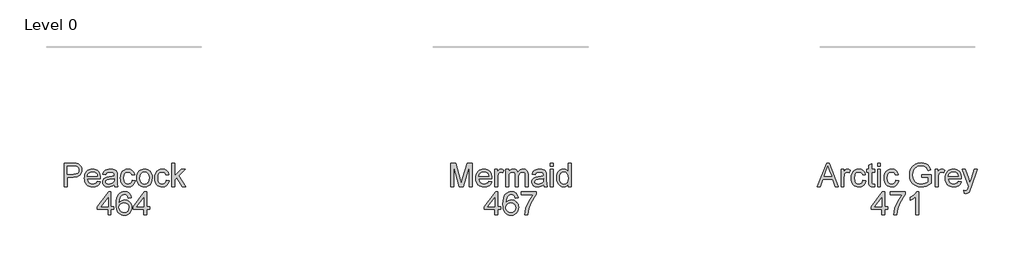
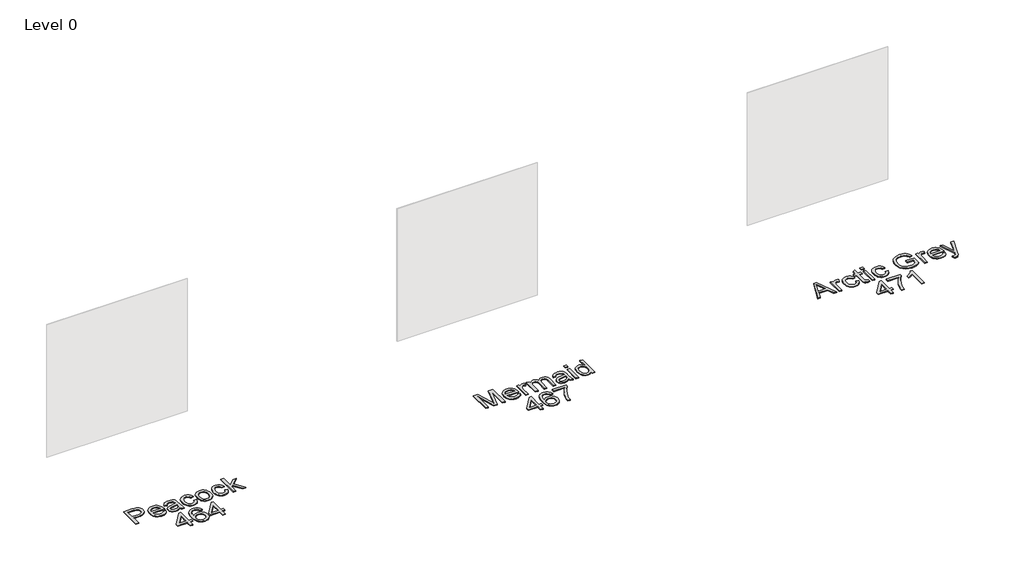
# One storey, part 7 of 15: 3 proxies.
"""IFC4 building model written with IfcOpenShell, lengths in millimetres."""

from ifc_helpers import new_model, si_unit, origin, origin_with_axes, place, context, project, spatial, polyline, outline, extrude, element, save

model = new_model("IFC4")

# Units and contexts
model_context = context("Model", 3, world=origin())
ifc_project = project(units=[si_unit("LENGTHUNIT", "METRE", prefix="MILLI")], contexts=[model_context])

# Site, building, storey
site = spatial("IfcSite", under=ifc_project)
building = spatial("IfcBuilding", under=site)
storey = spatial("IfcBuildingStorey", under=building, Name="Level 0", Elevation=0.0)

# Proxies
placement = place(None, origin())
element("IfcBuildingElementProxy", 1, Name="300mm Arial", ObjectType="300mm Arial", at=placement, inside=storey, context=model_context, shape_type="SweptSolid", body=[
    extrude(outline(polyline([(-220.5614958, -42021.0303751), (-220.5614958, -41719.6614447), (-108.8725221, -41719.6614447), (-63.8437659, -41722.5309242), (-43.766606, -41727.8928043), (-27.2395073, -41736.6208046), (-13.9313762, -41749.1103984), (-3.5111187, -41765.7570587), (3.2211219, -41785.3927602), (5.465202, -41806.8494775), (3.9499881, -41825.3493434), (-0.5956538, -41842.3684842), (-8.1717237, -41857.9068999), (-18.7782215, -41871.9645907), (-33.3394507, -41883.6172529), (-52.7797149, -41891.940583), (-77.099014, -41896.9345811), (-106.2973481, -41898.5992471), (-182.8903795, -41898.5992471), (-182.8903795, -42021.0303751), (-220.5614958, -42021.0303751)]), holes=[polyline([(-182.8903795, -41860.9281308), (-104.0900561, -41860.9281308), (-70.686371, -41857.4700401), (-48.6134513, -41847.0957678), (-36.3077985, -41830.4491075), (-32.2059143, -41808.1738527), (-34.6247384, -41791.2512809), (-41.8812108, -41776.9774595), (-53.0740205, -41766.2353053), (-67.3018566, -41759.9077349), (-104.9729729, -41757.332561), (-182.8903795, -41757.332561), (-182.8903795, -41860.9281308)])]), origin_with_axes(), (0.0, 0.0, 1.0), 10.0),
    extrude(outline(polyline([(207.5059938, -41955.1059216), (244.4413461, -41959.8148111), (231.1332149, -41987.6450841), (209.8972267, -42008.4488109), (181.2116282, -42021.4166512), (145.5546658, -42025.7392647), (122.1803635, -42023.8745628), (101.3536441, -42018.2804572), (83.0745074, -42008.9569479), (67.3429536, -41995.9040349), (54.6924115, -41979.4850016), (45.65631, -41960.0631315), (40.2346491, -41937.6384246), (38.4274288, -41912.2108809), (40.2530432, -41885.9211139), (45.7298864, -41862.7491467), (54.8579584, -41842.6949794), (67.6372592, -41825.7586121), (83.3274263, -41812.3033281), (101.1880972, -41802.692411), (121.2192718, -41796.9258607), (143.4209502, -41795.0036773), (164.907558, -41796.9212622), (184.3386251, -41802.6740169), (201.7141516, -41812.2619414), (217.0341374, -41825.6850357), (229.539826, -41842.5846148), (238.4724607, -41862.6019939), (243.8320415, -41885.7371729), (245.6185685, -41911.9901518), (245.3978393, -41922.1436948), (76.0985451, -41922.1436948), (82.6192535, -41950.3418497), (97.7667946, -41971.0720002), (119.6281822, -41983.8191113), (146.2904298, -41988.0681484), (166.3399985, -41986.0999797), (183.2257821, -41980.1954737), (196.9477805, -41969.9867483), (207.5059938, -41955.1059216)]), holes=[polyline([(76.0985451, -41884.4725785), (207.9474522, -41884.4725785), (202.8522865, -41864.5701626), (192.8642904, -41850.3331294), (170.9017353, -41837.0893775), (143.2737974, -41832.6747936), (117.8807427, -41836.1972637), (96.8838778, -41846.764674), (82.2881597, -41863.2365903), (76.0985451, -41884.4725785)])]), origin_with_axes(), (0.0, 0.0, 1.0), 10.0),
    extrude(outline(polyline([(424.5563709, -41992.7770379), (406.5577443, -42008.2096876), (388.0256888, -42018.3080484), (368.5371401, -42023.8814606), (347.6690339, -42025.7392647), (316.1875322, -42021.2694984), (292.9649813, -42007.8601997), (278.6451746, -41987.4979313), (273.8719057, -41962.1692559), (275.6745275, -41946.5526652), (281.0823928, -41932.3708143), (289.4241171, -41920.2307084), (300.0283156, -41910.739353), (326.4054546, -41898.3785179), (358.9997994, -41892.7131352), (397.5170443, -41886.7534469), (424.3356417, -41879.763689), (424.5563709, -41871.3759795), (421.9628029, -41854.5637723), (414.1820987, -41843.5641006), (396.7812803, -41835.3971204), (372.5378568, -41832.6747936), (350.0970551, -41834.4866124), (334.4252821, -41839.9220689), (323.7383102, -41849.9744444), (316.2519115, -41865.6370204), (278.5807952, -41860.9281308), (285.1198977, -41840.3267391), (294.8779676, -41824.1399313), (308.7655129, -41811.7607022), (327.6930416, -41802.5820464), (350.8420161, -41796.8982696), (377.3938991, -41795.0036773), (402.8605303, -41796.6775404), (423.0480547, -41801.6991296), (438.2691723, -41809.2499075), (448.8365826, -41818.5113368), (455.8447346, -41829.9616639), (460.3880773, -41844.0791354), (462.2274872, -41877.0413622), (462.2274872, -41923.9095284), (464.1404736, -41989.3557353), (471.6452663, -42021.0303751), (433.97415, -42021.0303751), (424.5563709, -41992.7770379)]), holes=[polyline([(424.5563709, -41917.4348053), (363.7822653, -41928.9862999), (331.3718616, -41935.093141), (316.6933699, -41945.0259549), (311.543022, -41959.5205055), (314.3481222, -41970.7225123), (322.7634229, -41979.9011681), (336.6049829, -41986.0264033), (355.6888614, -41988.0681484), (375.9223712, -41985.8148711), (393.8014361, -41979.0550395), (408.2959867, -41969.0946345), (418.3759534, -41957.2396372), (422.8457197, -41945.0259549), (424.3356417, -41928.1033831), (424.5563709, -41917.4348053)])]), origin_with_axes(), (0.0, 0.0, 1.0), 10.0),
    extrude(outline(polyline([(655.2919583, -41940.979253), (692.9630746, -41945.6881425), (682.4600436, -41979.1929952), (662.7231746, -42004.5124735), (635.6102716, -42020.4325669), (602.9791386, -42025.7392647), (581.8512158, -42023.8883584), (562.9075923, -42018.3356395), (546.1482681, -42009.0811081), (531.5732433, -41996.124764), (519.7757276, -41979.7103293), (511.3489306, -41960.0815256), (506.2928525, -41937.2383529), (504.6074931, -41911.1808114), (507.4861697, -41877.6575646), (516.1221995, -41848.604084), (530.6535383, -41825.1424097), (551.2181419, -41808.3945819), (575.8202503, -41798.3514034), (602.4641038, -41795.0036773), (634.2950934, -41799.6022022), (659.7433304, -41813.397777), (677.9994745, -41835.6546378), (688.2541851, -41865.6370204), (650.5830688, -41870.3459099), (643.7496607, -41853.9107818), (633.108674, -41842.1293609), (619.2487198, -41835.0384354), (602.7584094, -41832.6747936), (578.4138184, -41837.3285008), (559.0908166, -41851.2896225), (546.4816612, -41875.3123168), (542.2786094, -41910.1507418), (546.3896907, -41945.4582163), (558.7229346, -41969.563684), (577.6964485, -41983.4420323), (601.7283398, -41988.0681484), (621.2352826, -41985.1802747), (637.2289523, -41976.5166537), (648.8632204, -41961.8565562), (655.2919583, -41940.979253)])), origin_with_axes(), (0.0, 0.0, 1.0), 10.0),
    extrude(outline(polyline([(716.5075223, -41910.371471), (718.5446688, -41881.708865), (724.6561085, -41857.0101876), (734.8418412, -41836.2754386), (749.1018671, -41819.5046182), (763.4584619, -41808.7854565), (779.3049789, -41801.1289125), (796.6414179, -41796.5349861), (815.467779, -41795.0036773), (836.2508125, -41796.8683791), (855.0426846, -41802.4624847), (871.8433955, -41811.7859941), (886.6529451, -41824.8389071), (898.7401679, -41841.1797655), (907.3738984, -41860.3671108), (912.5541368, -41882.400943), (914.2808829, -41907.2812622), (911.2274623, -41945.3386546), (902.0672007, -41974.3093617), (887.0668123, -41996.0052024), (866.4930117, -42012.2379954), (842.0564502, -42022.3639474), (815.467779, -42025.7392647), (794.3812429, -42023.8814606), (775.4146268, -42018.3080484), (758.5679307, -42009.019028), (743.8411545, -41996.0143994), (731.8826904, -41979.514892), (723.3409304, -41959.7412347), (718.2158743, -41936.6934277), (716.5075223, -41910.371471)]), holes=[polyline([(754.1786386, -41910.2978946), (758.5380402, -41944.3913585), (771.6162452, -41968.6807672), (791.2979319, -41983.2213031), (815.467779, -41988.0681484), (839.5272615, -41983.1937119), (859.17216, -41968.5704026), (872.250365, -41943.9590971), (876.6097666, -41909.1206722), (872.2227738, -41876.0204897), (859.0617954, -41852.0621747), (839.3893057, -41837.5216389), (815.467779, -41832.6747936), (791.2979319, -41837.5032448), (771.6162452, -41851.9885983), (758.5380402, -41876.2228248), (754.1786386, -41910.2978946)])]), origin_with_axes(), (0.0, 0.0, 1.0), 10.0),
    extrude(outline(polyline([(1097.9275749, -41940.979253), (1135.5986912, -41945.6881425), (1125.0956602, -41979.1929952), (1105.3587912, -42004.5124735), (1078.2458882, -42020.4325669), (1045.6147552, -42025.7392647), (1024.4868324, -42023.8883584), (1005.5432089, -42018.3356395), (988.7838847, -42009.0811081), (974.2088599, -41996.124764), (962.4113442, -41979.7103293), (953.9845472, -41960.0815256), (948.9284691, -41937.2383529), (947.2431097, -41911.1808114), (950.1217863, -41877.6575646), (958.7578161, -41848.604084), (973.2891549, -41825.1424097), (993.8537585, -41808.3945819), (1018.4558669, -41798.3514034), (1045.0997204, -41795.0036773), (1076.93071, -41799.6022022), (1102.378947, -41813.397777), (1120.6350911, -41835.6546378), (1130.8898017, -41865.6370204), (1093.2186854, -41870.3459099), (1086.3852773, -41853.9107818), (1075.7442906, -41842.1293609), (1061.8843364, -41835.0384354), (1045.394026, -41832.6747936), (1021.049435, -41837.3285008), (1001.7264332, -41851.2896225), (989.1172778, -41875.3123168), (984.914226, -41910.1507418), (989.0253073, -41945.4582163), (1001.3585512, -41969.563684), (1020.3320651, -41983.4420323), (1044.3639564, -41988.0681484), (1063.8708992, -41985.1802747), (1079.8645689, -41976.5166537), (1091.498837, -41961.8565562), (1097.9275749, -41940.979253)])), origin_with_axes(), (0.0, 0.0, 1.0), 10.0),
    extrude(outline(polyline([(1168.560918, -42021.0303751), (1168.560918, -41719.6614447), (1206.2320343, -41719.6614447), (1206.2320343, -41881.6030989), (1290.6977404, -41799.7125668), (1342.7898309, -41799.7125668), (1257.2940552, -41882.6331685), (1347.4987204, -42021.0303751), (1303.5000338, -42021.0303751), (1230.2915168, -41908.8263666), (1206.2320343, -41932.1500851), (1206.2320343, -42021.0303751), (1168.560918, -42021.0303751)])), origin_with_axes(), (0.0, 0.0, 1.0), 10.0),
    extrude(outline(polyline([(344.5052488, -42386.9548287), (344.5052488, -42316.3214856), (207.9474522, -42316.3214856), (207.9474522, -42278.6503693), (353.9230279, -42090.2947877), (382.1763651, -42090.2947877), (382.1763651, -42278.6503693), (419.8474814, -42278.6503693), (419.8474814, -42316.3214856), (382.1763651, -42316.3214856), (382.1763651, -42386.9548287), (344.5052488, -42386.9548287)]), holes=[polyline([(344.5052488, -42278.6503693), (344.5052488, -42162.252506), (254.3005836, -42278.6503693), (344.5052488, -42278.6503693)])]), origin_with_axes(), (0.0, 0.0, 1.0), 10.0),
    extrude(outline(polyline([(645.8741792, -42165.6370204), (608.2030629, -42170.3459099), (602.13301, -42151.6758986), (593.9292415, -42138.9287875), (576.8411228, -42127.1749578), (556.1845488, -42123.2570145), (538.6733658, -42125.5378829), (522.1922524, -42132.380488), (508.0379927, -42146.7922652), (496.477301, -42166.6303017), (488.6690056, -42194.6905009), (485.7719349, -42233.7687659), (500.8826879, -42216.1380212), (518.9916791, -42203.7128069), (539.0872331, -42196.3459699), (560.1576744, -42193.8903576), (578.2574685, -42195.5688192), (594.9593111, -42200.604204), (610.2632021, -42208.996512), (624.1691415, -42220.7457432), (635.7252347, -42235.1529219), (643.979587, -42251.5190721), (648.9321983, -42269.844194), (650.5830688, -42290.1282875), (647.4744659, -42317.1032348), (638.1486573, -42342.1100134), (623.3781952, -42363.3184105), (603.9356318, -42378.898213), (580.7038838, -42388.4723419), (554.565868, -42391.6637182), (532.1089715, -42389.5483967), (511.8271772, -42383.2024323), (493.7204853, -42372.6258249), (477.7888956, -42357.8185746), (464.8003619, -42338.155282), (455.5228379, -42313.0105476), (449.9563234, -42282.3843715), (448.1008186, -42246.2767537), (450.1609578, -42205.7959387), (456.3413753, -42171.2472208), (466.6420712, -42142.6306001), (481.0630454, -42119.9460766), (496.6934317, -42104.9134985), (514.8162184, -42094.1759428), (535.4314057, -42087.7334094), (558.5389936, -42085.5858982), (591.5931908, -42090.901793), (618.0623004, -42106.8494775), (636.6035529, -42132.1781529), (645.8741792, -42165.6370204)]), holes=[polyline([(485.7719349, -42289.5396763), (487.9516357, -42306.2323219), (494.4907382, -42322.1708093), (504.6442813, -42335.8744136), (517.6673039, -42345.8624098), (533.3850622, -42351.9600539), (551.6228121, -42353.9926019), (576.4824379, -42349.780353), (596.0261689, -42337.1436065), (608.6905066, -42317.2779788), (612.9119525, -42291.3790863), (608.7456889, -42266.5194605), (596.2468981, -42247.5643407), (576.3720733, -42235.5621906), (550.0777077, -42231.5614739), (525.2548701, -42235.5621906), (504.4971285, -42247.5643407), (490.4532333, -42266.059608), (485.7719349, -42289.5396763)])]), origin_with_axes(), (0.0, 0.0, 1.0), 10.0),
    extrude(outline(polyline([(805.9764235, -42386.9548287), (805.9764235, -42316.3214856), (669.4186269, -42316.3214856), (669.4186269, -42278.6503693), (815.3942026, -42090.2947877), (843.6475398, -42090.2947877), (843.6475398, -42278.6503693), (881.3186561, -42278.6503693), (881.3186561, -42316.3214856), (843.6475398, -42316.3214856), (843.6475398, -42386.9548287), (805.9764235, -42386.9548287)]), holes=[polyline([(805.9764235, -42278.6503693), (805.9764235, -42162.252506), (715.7717583, -42278.6503693), (805.9764235, -42278.6503693)])]), origin_with_axes(), (0.0, 0.0, 1.0), 10.0),
])
element("IfcBuildingElementProxy", 2, Name="300mm Arial", ObjectType="300mm Arial", at=placement, inside=storey, context=model_context, shape_type="SweptSolid", body=[
    extrude(outline(polyline([(4772.3751699, -42021.0303751), (4772.3751699, -41719.6614447), (4837.1959774, -41719.6614447), (4898.8529998, -41932.0765087), (4911.2874113, -41976.4430773), (4924.7518923, -41928.3976887), (4985.3788451, -41719.6614447), (5050.1996526, -41719.6614447), (5050.1996526, -42021.0303751), (5012.5285363, -42021.0303751), (5012.5285363, -41757.332561), (4936.8184217, -42021.0303751), (4885.7564008, -42021.0303751), (4810.0462862, -41757.332561), (4810.0462862, -42021.0303751), (4772.3751699, -42021.0303751)])), origin_with_axes(), (0.0, 0.0, 1.0), 10.0),
    extrude(outline(polyline([(5266.367113, -41955.1059216), (5303.3024653, -41959.8148111), (5289.9943341, -41987.6450841), (5268.758346, -42008.4488109), (5240.0727474, -42021.4166512), (5204.415785, -42025.7392647), (5181.0414827, -42023.8745628), (5160.2147633, -42018.2804572), (5141.9356267, -42008.9569479), (5126.2040728, -41995.9040349), (5113.5535307, -41979.4850016), (5104.5174292, -41960.0631315), (5099.0957683, -41937.6384246), (5097.288548, -41912.2108809), (5099.1141624, -41885.9211139), (5104.5910056, -41862.7491467), (5113.7190776, -41842.6949794), (5126.4983784, -41825.7586121), (5142.1885455, -41812.3033281), (5160.0492164, -41802.692411), (5180.080391, -41796.9258607), (5202.2820694, -41795.0036773), (5223.7686772, -41796.9212622), (5243.1997444, -41802.6740169), (5260.5752708, -41812.2619414), (5275.8952567, -41825.6850357), (5288.4009453, -41842.5846148), (5297.3335799, -41862.6019939), (5302.6931608, -41885.7371729), (5304.4796877, -41911.9901518), (5304.2589585, -41922.1436948), (5134.9596643, -41922.1436948), (5141.4803727, -41950.3418497), (5156.6279138, -41971.0720002), (5178.4893014, -41983.8191113), (5205.151549, -41988.0681484), (5225.2011177, -41986.0999797), (5242.0869013, -41980.1954737), (5255.8088997, -41969.9867483), (5266.367113, -41955.1059216)]), holes=[polyline([(5134.9596643, -41884.4725785), (5266.8085714, -41884.4725785), (5261.7134058, -41864.5701626), (5251.7254096, -41850.3331294), (5229.7628545, -41837.0893775), (5202.1349166, -41832.6747936), (5176.7418619, -41836.1972637), (5155.7449971, -41846.764674), (5141.1492789, -41863.2365903), (5134.9596643, -41884.4725785)])]), origin_with_axes(), (0.0, 0.0, 1.0), 10.0),
    extrude(outline(polyline([(5342.150804, -42021.0303751), (5342.150804, -41799.7125668), (5375.1130308, -41799.7125668), (5375.1130308, -41832.4540644), (5387.2899248, -41813.4713534), (5398.5103257, -41802.2877408), (5409.7675147, -41796.8246932), (5422.0547734, -41795.0036773), (5440.8167551, -41797.909945), (5459.8730425, -41806.6287483), (5447.2914782, -41840.4003155), (5434.0477264, -41834.6061741), (5420.8039746, -41832.6747936), (5409.5559826, -41834.5325977), (5399.5036071, -41840.1060099), (5391.382612, -41848.971966), (5385.9287614, -41860.7074016), (5381.3486306, -41881.7502517), (5379.8219203, -41904.7060882), (5379.8219203, -42021.0303751), (5342.150804, -42021.0303751)])), origin_with_axes(), (0.0, 0.0, 1.0), 10.0),
    extrude(outline(polyline([(5483.4174902, -42021.0303751), (5483.4174902, -41799.7125668), (5521.0886065, -41799.7125668), (5521.0886065, -41836.1328843), (5532.4193719, -41819.4034506), (5546.9874989, -41806.2976545), (5564.2963468, -41797.8271716), (5583.8492748, -41795.0036773), (5604.8001545, -41797.8823539), (5621.5939675, -41806.5183837), (5634.1387436, -41820.3415497), (5642.3425121, -41838.7816347), (5656.0737075, -41819.6287783), (5671.7362835, -41805.9481666), (5689.3302399, -41797.7397996), (5708.8555768, -41795.0036773), (5737.1732934, -41799.556217), (5758.114976, -41813.213836), (5771.0552251, -41836.3444165), (5775.3686415, -41869.3158403), (5775.3686415, -42021.0303751), (5737.6975252, -42021.0303751), (5737.6975252, -41885.5026481), (5734.2026463, -41854.0487375), (5729.2914216, -41845.3759195), (5721.5475056, -41838.5609055), (5711.5871006, -41834.1463216), (5700.0264089, -41832.6747936), (5679.6181552, -41836.445584), (5662.980692, -41847.7579554), (5651.916641, -41867.3844598), (5648.228624, -41896.0976496), (5648.228624, -42021.0303751), (5610.5575077, -42021.0303751), (5610.5575077, -41881.3087934), (5608.3778069, -41860.0084258), (5601.8387044, -41844.8148994), (5590.333195, -41835.7098201), (5573.2542734, -41832.6747936), (5558.7413287, -41834.6981446), (5545.3688181, -41840.7681975), (5534.3323583, -41850.7377996), (5526.8275656, -41864.459798), (5522.5233462, -41883.4976912), (5521.0886065, -41909.4149778), (5521.0886065, -42021.0303751), (5483.4174902, -42021.0303751)])), origin_with_axes(), (0.0, 0.0, 1.0), 10.0),
    extrude(outline(polyline([(5973.1420021, -41992.7770379), (5955.1433755, -42008.2096876), (5936.61132, -42018.3080484), (5917.1227713, -42023.8814606), (5896.2546651, -42025.7392647), (5864.7731634, -42021.2694984), (5841.5506125, -42007.8601997), (5827.2308058, -41987.4979313), (5822.4575369, -41962.1692559), (5824.2601587, -41946.5526652), (5829.668024, -41932.3708143), (5838.0097483, -41920.2307084), (5848.6139468, -41910.739353), (5874.9910858, -41898.3785179), (5907.5854306, -41892.7131352), (5946.1026755, -41886.7534469), (5972.9212729, -41879.763689), (5973.1420021, -41871.3759795), (5970.5484341, -41854.5637723), (5962.7677299, -41843.5641006), (5945.3669115, -41835.3971204), (5921.123488, -41832.6747936), (5898.6826863, -41834.4866124), (5883.0109133, -41839.9220689), (5872.3239414, -41849.9744444), (5864.8375428, -41865.6370204), (5827.1664265, -41860.9281308), (5833.7055289, -41840.3267391), (5843.4635988, -41824.1399313), (5857.3511442, -41811.7607022), (5876.2786728, -41802.5820464), (5899.4276474, -41796.8982696), (5925.9795304, -41795.0036773), (5951.4461615, -41796.6775404), (5971.633686, -41801.6991296), (5986.8548035, -41809.2499075), (5997.4222138, -41818.5113368), (6004.4303658, -41829.9616639), (6008.9737085, -41844.0791354), (6010.8131184, -41877.0413622), (6010.8131184, -41923.9095284), (6012.7261048, -41989.3557353), (6020.2308975, -42021.0303751), (5982.5597812, -42021.0303751), (5973.1420021, -41992.7770379)]), holes=[polyline([(5973.1420021, -41917.4348053), (5912.3678965, -41928.9862999), (5879.9574928, -41935.093141), (5865.2790012, -41945.0259549), (5860.1286532, -41959.5205055), (5862.9337534, -41970.7225123), (5871.3490541, -41979.9011681), (5885.1906141, -41986.0264033), (5904.2744926, -41988.0681484), (5924.5080024, -41985.8148711), (5942.3870673, -41979.0550395), (5956.8816179, -41969.0946345), (5966.9615846, -41957.2396372), (5971.4313509, -41945.0259549), (5972.9212729, -41928.1033831), (5973.1420021, -41917.4348053)])]), origin_with_axes(), (0.0, 0.0, 1.0), 10.0),
    extrude(outline(polyline([(6062.6109034, -41757.332561), (6062.6109034, -41719.6614447), (6100.2820197, -41719.6614447), (6100.2820197, -41757.332561), (6062.6109034, -41757.332561)])), origin_with_axes(), (0.0, 0.0, 1.0), 10.0),
    extrude(outline(polyline([(6062.6109034, -42021.0303751), (6062.6109034, -41799.7125668), (6100.2820197, -41799.7125668), (6100.2820197, -42021.0303751), (6062.6109034, -42021.0303751)])), origin_with_axes(), (0.0, 0.0, 1.0), 10.0),
    extrude(outline(polyline([(6293.3464907, -42021.0303751), (6293.3464907, -41985.4929744), (6282.0755061, -42003.1007264), (6268.4224856, -42015.6776921), (6252.3874291, -42023.2238715), (6233.9703367, -42025.7392647), (6209.6165486, -42022.0972329), (6187.3228997, -42011.1711376), (6168.4505534, -41993.724334), (6154.360673, -41970.5201772), (6145.5866874, -41942.4967662), (6142.6620255, -41910.5922002), (6145.3567611, -41879.0831073), (6153.440968, -41850.627435), (6166.905449, -41826.843864), (6185.7410071, -41809.3510751), (6208.5220997, -41798.5905267), (6233.8231839, -41795.0036773), (6252.2540719, -41797.5696542), (6268.5512443, -41805.2675849), (6282.3652132, -41817.0673999), (6293.3464907, -41831.9390296), (6293.3464907, -41719.6614447), (6331.017607, -41719.6614447), (6331.017607, -42021.0303751), (6293.3464907, -42021.0303751)]), holes=[polyline([(6180.3331418, -41910.4450474), (6184.5821789, -41944.5201172), (6197.32929, -41968.7543436), (6215.8521485, -41983.2396972), (6237.4284275, -41988.0681484), (6258.9955094, -41983.4604264), (6277.0493184, -41969.6372604), (6289.2721976, -41946.341133), (6293.3464907, -41913.3145269), (6289.1986212, -41877.2069091), (6276.7550128, -41852.1725393), (6258.2413513, -41837.54923), (6235.8833231, -41832.6747936), (6214.0863149, -41837.356092), (6196.225644, -41851.3999871), (6184.3062674, -41875.523849), (6180.3331418, -41910.4450474)])]), origin_with_axes(), (0.0, 0.0, 1.0), 10.0),
    extrude(outline(polyline([(5344.5052488, -42386.9548287), (5344.5052488, -42316.3214856), (5207.9474522, -42316.3214856), (5207.9474522, -42278.6503693), (5353.9230279, -42090.2947877), (5382.1763651, -42090.2947877), (5382.1763651, -42278.6503693), (5419.8474814, -42278.6503693), (5419.8474814, -42316.3214856), (5382.1763651, -42316.3214856), (5382.1763651, -42386.9548287), (5344.5052488, -42386.9548287)]), holes=[polyline([(5344.5052488, -42278.6503693), (5344.5052488, -42162.252506), (5254.3005836, -42278.6503693), (5344.5052488, -42278.6503693)])]), origin_with_axes(), (0.0, 0.0, 1.0), 10.0),
    extrude(outline(polyline([(5645.8741792, -42165.6370204), (5608.2030629, -42170.3459099), (5602.13301, -42151.6758986), (5593.9292415, -42138.9287875), (5576.8411228, -42127.1749578), (5556.1845488, -42123.2570145), (5538.6733658, -42125.5378829), (5522.1922524, -42132.380488), (5508.0379927, -42146.7922652), (5496.477301, -42166.6303017), (5488.6690056, -42194.6905009), (5485.7719349, -42233.7687659), (5500.8826879, -42216.1380212), (5518.9916791, -42203.7128069), (5539.0872331, -42196.3459699), (5560.1576744, -42193.8903576), (5578.2574685, -42195.5688192), (5594.9593111, -42200.604204), (5610.2632021, -42208.996512), (5624.1691415, -42220.7457432), (5635.7252347, -42235.1529219), (5643.979587, -42251.5190721), (5648.9321983, -42269.844194), (5650.5830688, -42290.1282875), (5647.4744659, -42317.1032348), (5638.1486573, -42342.1100134), (5623.3781952, -42363.3184105), (5603.9356318, -42378.898213), (5580.7038838, -42388.4723419), (5554.565868, -42391.6637182), (5532.1089715, -42389.5483967), (5511.8271772, -42383.2024323), (5493.7204853, -42372.6258249), (5477.7888956, -42357.8185746), (5464.8003619, -42338.155282), (5455.5228379, -42313.0105476), (5449.9563234, -42282.3843715), (5448.1008186, -42246.2767537), (5450.1609578, -42205.7959387), (5456.3413753, -42171.2472208), (5466.6420712, -42142.6306001), (5481.0630454, -42119.9460766), (5496.6934317, -42104.9134985), (5514.8162184, -42094.1759428), (5535.4314057, -42087.7334094), (5558.5389936, -42085.5858982), (5591.5931908, -42090.901793), (5618.0623004, -42106.8494775), (5636.6035529, -42132.1781529), (5645.8741792, -42165.6370204)]), holes=[polyline([(5485.7719349, -42289.5396763), (5487.9516357, -42306.2323219), (5494.4907382, -42322.1708093), (5504.6442813, -42335.8744136), (5517.6673039, -42345.8624098), (5533.3850622, -42351.9600539), (5551.6228121, -42353.9926019), (5576.4824379, -42349.780353), (5596.0261689, -42337.1436065), (5608.6905066, -42317.2779788), (5612.9119525, -42291.3790863), (5608.7456889, -42266.5194605), (5596.2468981, -42247.5643407), (5576.3720733, -42235.5621906), (5550.0777077, -42231.5614739), (5525.2548701, -42235.5621906), (5504.4971285, -42247.5643407), (5490.4532333, -42266.059608), (5485.7719349, -42289.5396763)])]), origin_with_axes(), (0.0, 0.0, 1.0), 10.0),
    extrude(outline(polyline([(5683.5452955, -42127.9659041), (5683.5452955, -42090.2947877), (5881.3186561, -42090.2947877), (5881.3186561, -42120.7554169), (5853.1296983, -42156.4307734), (5825.2166519, -42201.7998205), (5800.5961493, -42252.7238857), (5782.284823, -42305.0642965), (5773.3085024, -42344.2253349), (5768.3053072, -42386.9548287), (5730.6341909, -42386.9548287), (5734.708484, -42348.1248841), (5745.6069881, -42301.9740878), (5763.0353976, -42253.0549795), (5786.699407, -42205.9200988), (5814.3273448, -42163.3101667), (5843.6475398, -42127.9659041), (5683.5452955, -42127.9659041)])), origin_with_axes(), (0.0, 0.0, 1.0), 10.0),
])
element("IfcBuildingElementProxy", 3, Name="300mm Arial", ObjectType="300mm Arial", at=placement, inside=storey, context=model_context, shape_type="SweptSolid", body=[
    extrude(outline(polyline([(9511.2525297, -42021.0303751), (9631.5499421, -41719.6614447), (9663.6292521, -41719.6614447), (9783.9266645, -42021.0303751), (9744.1218326, -42021.0303751), (9709.6145015, -41926.8525844), (9585.4911163, -41926.8525844), (9551.0573616, -42021.0303751), (9511.2525297, -42021.0303751)]), holes=[polyline([(9599.3234793, -41889.181468), (9695.8557149, -41889.181468), (9668.7060236, -41815.0900342), (9647.5895971, -41757.332561), (9628.8276154, -41808.6153111), (9599.3234793, -41889.181468)])]), origin_with_axes(), (0.0, 0.0, 1.0), 10.0),
    extrude(outline(polyline([(9819.4640653, -42021.0303751), (9819.4640653, -41799.7125668), (9852.426292, -41799.7125668), (9852.426292, -41832.4540644), (9864.6031861, -41813.4713534), (9875.8235869, -41802.2877408), (9887.080776, -41796.8246932), (9899.3680346, -41795.0036773), (9918.1300164, -41797.909945), (9937.1863037, -41806.6287483), (9924.6047395, -41840.4003155), (9911.3609877, -41834.6061741), (9898.1172358, -41832.6747936), (9886.8692438, -41834.5325977), (9876.8168683, -41840.1060099), (9868.6958733, -41848.971966), (9863.2420227, -41860.7074016), (9858.6618918, -41881.7502517), (9857.1351816, -41904.7060882), (9857.1351816, -42021.0303751), (9819.4640653, -42021.0303751)])), origin_with_axes(), (0.0, 0.0, 1.0), 10.0),
    extrude(outline(polyline([(10101.9974376, -41940.979253), (10139.6685539, -41945.6881425), (10129.1655229, -41979.1929952), (10109.4286539, -42004.5124735), (10082.3157508, -42020.4325669), (10049.6846178, -42025.7392647), (10028.556695, -42023.8883584), (10009.6130715, -42018.3356395), (9992.8537474, -42009.0811081), (9978.2787226, -41996.124764), (9966.4812068, -41979.7103293), (9958.0544099, -41960.0815256), (9952.9983317, -41937.2383529), (9951.3129723, -41911.1808114), (9954.1916489, -41877.6575646), (9962.8276788, -41848.604084), (9977.3590176, -41825.1424097), (9997.9236211, -41808.3945819), (10022.5257295, -41798.3514034), (10049.1695831, -41795.0036773), (10081.0005727, -41799.6022022), (10106.4488097, -41813.397777), (10124.7049537, -41835.6546378), (10134.9596643, -41865.6370204), (10097.288548, -41870.3459099), (10090.45514, -41853.9107818), (10079.8141532, -41842.1293609), (10065.9541991, -41835.0384354), (10049.4638886, -41832.6747936), (10025.1192976, -41837.3285008), (10005.7962958, -41851.2896225), (9993.1871404, -41875.3123168), (9988.9840886, -41910.1507418), (9993.0951699, -41945.4582163), (10005.4284138, -41969.563684), (10024.4019277, -41983.4420323), (10048.4338191, -41988.0681484), (10067.9407619, -41985.1802747), (10083.9344316, -41976.5166537), (10095.5686997, -41961.8565562), (10101.9974376, -41940.979253)])), origin_with_axes(), (0.0, 0.0, 1.0), 10.0),
    extrude(outline(polyline([(10252.6819028, -41989.6132527), (10257.3907923, -42022.1340211), (10229.2110315, -42025.7392647), (10211.1296314, -42024.1757662), (10197.6467563, -42019.4852707), (10188.1186126, -42012.2563895), (10181.9014069, -42003.0777338), (10178.4801044, -41987.3139903), (10177.3396702, -41960.3298459), (10177.3396702, -41837.3836831), (10149.0863329, -41837.3836831), (10149.0863329, -41799.7125668), (10177.3396702, -41799.7125668), (10177.3396702, -41745.9282191), (10215.0107865, -41723.781723), (10215.0107865, -41799.7125668), (10252.6819028, -41799.7125668), (10252.6819028, -41837.3836831), (10215.0107865, -41837.3836831), (10215.0107865, -41959.2261999), (10216.9973492, -41978.6503693), (10223.4352842, -41985.5297626), (10236.2743658, -41988.0681484), (10252.6819028, -41989.6132527)])), origin_with_axes(), (0.0, 0.0, 1.0), 10.0),
    extrude(outline(polyline([(10290.3530191, -42021.0303751), (10290.3530191, -41799.7125668), (10328.0241354, -41799.7125668), (10328.0241354, -42021.0303751), (10290.3530191, -42021.0303751)])), origin_with_axes(), (0.0, 0.0, 1.0), 10.0),
    extrude(outline(polyline([(10290.3530191, -41757.332561), (10290.3530191, -41719.6614447), (10328.0241354, -41719.6614447), (10328.0241354, -41757.332561), (10290.3530191, -41757.332561)])), origin_with_axes(), (0.0, 0.0, 1.0), 10.0),
    extrude(outline(polyline([(10525.797496, -41940.979253), (10563.4686123, -41945.6881425), (10552.9655813, -41979.1929952), (10533.2287123, -42004.5124735), (10506.1158093, -42020.4325669), (10473.4846763, -42025.7392647), (10452.3567535, -42023.8883584), (10433.41313, -42018.3356395), (10416.6538058, -42009.0811081), (10402.078781, -41996.124764), (10390.2812653, -41979.7103293), (10381.8544683, -41960.0815256), (10376.7983902, -41937.2383529), (10375.1130308, -41911.1808114), (10377.9917074, -41877.6575646), (10386.6277372, -41848.604084), (10401.159076, -41825.1424097), (10421.7236796, -41808.3945819), (10446.325788, -41798.3514034), (10472.9696415, -41795.0036773), (10504.8006311, -41799.6022022), (10530.2488681, -41813.397777), (10548.5050122, -41835.6546378), (10558.7597228, -41865.6370204), (10521.0886065, -41870.3459099), (10514.2551984, -41853.9107818), (10503.6142117, -41842.1293609), (10489.7542575, -41835.0384354), (10473.2639471, -41832.6747936), (10448.9193561, -41837.3285008), (10429.5963543, -41851.2896225), (10416.9871989, -41875.3123168), (10412.7841471, -41910.1507418), (10416.8952284, -41945.4582163), (10429.2284723, -41969.563684), (10448.2019862, -41983.4420323), (10472.2338775, -41988.0681484), (10491.7408203, -41985.1802747), (10507.73449, -41976.5166537), (10519.3687581, -41961.8565562), (10525.797496, -41940.979253)])), origin_with_axes(), (0.0, 0.0, 1.0), 10.0),
    extrude(outline(polyline([(10860.1286532, -41903.3081367), (10860.1286532, -41865.6370204), (10982.5597812, -41865.6370204), (10982.5597812, -41978.2824873), (10952.8073249, -41998.9758495), (10922.1167694, -42013.819888), (10890.5616913, -42022.7594205), (10858.2156668, -42025.7392647), (10815.9552226, -42021.002784), (10777.7598745, -42006.7933419), (10746.0300524, -41983.6075792), (10723.1661864, -41951.9421364), (10709.3430204, -41913.9583204), (10704.7352985, -41871.8174379), (10709.3246263, -41829.3730527), (10723.09261, -41789.8901176), (10745.4690324, -41756.7715409), (10775.8836763, -41733.4202313), (10812.9293932, -41719.5694742), (10855.1990345, -41714.9525551), (10886.2298808, -41717.6288966), (10914.1337301, -41725.6579212), (10937.6321926, -41738.4602146), (10955.4468782, -41755.4563628), (10968.6262506, -41777.4649032), (10978.2187737, -41805.3043731), (10943.4907133, -41815.0900342), (10935.7376003, -41795.2336035), (10926.3106242, -41780.2516093), (10913.8394245, -41768.957632), (10896.9536409, -41760.1652523), (10876.8212987, -41754.5090667), (10854.6104233, -41752.6236714), (10828.6103633, -41754.6562195), (10806.3810937, -41760.7538635), (10788.0053881, -41770.1532485), (10773.5660198, -41782.0910193), (10754.1786386, -41811.1169087), (10745.3494707, -41839.5541869), (10742.4064148, -41870.2723335), (10745.947279, -41906.2971779), (10756.5698716, -41935.9392696), (10773.9522958, -41958.9870766), (10797.772655, -41975.2290667), (10825.6489132, -41984.8583779), (10855.1990345, -41988.0681484), (10881.291065, -41985.6493242), (10906.739302, -41978.3928519), (10928.8398129, -41968.3956587), (10944.8886649, -41957.754672), (10944.8886649, -41903.3081367), (10860.1286532, -41903.3081367)])), origin_with_axes(), (0.0, 0.0, 1.0), 10.0),
    extrude(outline(polyline([(11039.0664557, -42021.0303751), (11039.0664557, -41799.7125668), (11072.0286824, -41799.7125668), (11072.0286824, -41832.4540644), (11084.2055765, -41813.4713534), (11095.4259773, -41802.2877408), (11106.6831664, -41796.8246932), (11118.970425, -41795.0036773), (11137.7324068, -41797.909945), (11156.7886941, -41806.6287483), (11144.2071299, -41840.4003155), (11130.9633781, -41834.6061741), (11117.7196262, -41832.6747936), (11106.4716342, -41834.5325977), (11096.4192587, -41840.1060099), (11088.2982637, -41848.971966), (11082.8444131, -41860.7074016), (11078.2642823, -41881.7502517), (11076.737572, -41904.7060882), (11076.737572, -42021.0303751), (11039.0664557, -42021.0303751)])), origin_with_axes(), (0.0, 0.0, 1.0), 10.0),
    extrude(outline(polyline([(11335.2850382, -41955.1059216), (11372.2203905, -41959.8148111), (11358.9122593, -41987.6450841), (11337.6762712, -42008.4488109), (11308.9906726, -42021.4166512), (11273.3337102, -42025.7392647), (11249.9594079, -42023.8745628), (11229.1326885, -42018.2804572), (11210.8535518, -42008.9569479), (11195.121998, -41995.9040349), (11182.4714559, -41979.4850016), (11173.4353544, -41960.0631315), (11168.0136935, -41937.6384246), (11166.2064732, -41912.2108809), (11168.0320876, -41885.9211139), (11173.5089308, -41862.7491467), (11182.6370028, -41842.6949794), (11195.4163036, -41825.7586121), (11211.1064707, -41812.3033281), (11228.9671416, -41802.692411), (11248.9983162, -41796.9258607), (11271.1999946, -41795.0036773), (11292.6866024, -41796.9212622), (11312.1176695, -41802.6740169), (11329.493196, -41812.2619414), (11344.8131819, -41825.6850357), (11357.3188704, -41842.5846148), (11366.2515051, -41862.6019939), (11371.6110859, -41885.7371729), (11373.3976129, -41911.9901518), (11373.1768837, -41922.1436948), (11203.8775895, -41922.1436948), (11210.3982979, -41950.3418497), (11225.545839, -41971.0720002), (11247.4072266, -41983.8191113), (11274.0694742, -41988.0681484), (11294.1190429, -41986.0999797), (11311.0048265, -41980.1954737), (11324.7268249, -41969.9867483), (11335.2850382, -41955.1059216)]), holes=[polyline([(11203.8775895, -41884.4725785), (11335.7264966, -41884.4725785), (11330.6313309, -41864.5701626), (11320.6433348, -41850.3331294), (11298.6807797, -41837.0893775), (11271.0528418, -41832.6747936), (11245.6597871, -41836.1972637), (11224.6629222, -41846.764674), (11210.0672041, -41863.2365903), (11203.8775895, -41884.4725785)])]), origin_with_axes(), (0.0, 0.0, 1.0), 10.0),
    extrude(outline(polyline([(11411.0687292, -42105.7903868), (11406.3598397, -42069.5172221), (11425.4897034, -42072.82816), (11443.3687684, -42068.6710935), (11454.3316518, -42057.0828106), (11464.6323477, -42029.3445082), (11467.5754037, -42020.2210347), (11387.5242815, -41799.7125668), (11427.255537, -41799.7125668), (11469.7091192, -41922.5851532), (11484.4979754, -41971.7341878), (11499.2868316, -41928.3241123), (11542.9176363, -41799.7125668), (11582.3545861, -41799.7125668), (11505.3200964, -42026.3278759), (11485.3073158, -42075.4769104), (11475.0618023, -42091.1670775), (11463.4551253, -42102.0379905), (11449.9722502, -42108.3839549), (11434.0981421, -42110.4992763), (11411.0687292, -42105.7903868)])), origin_with_axes(), (0.0, 0.0, 1.0), 10.0),
    extrude(outline(polyline([(10344.5052488, -42386.9548287), (10344.5052488, -42316.3214856), (10207.9474522, -42316.3214856), (10207.9474522, -42278.6503693), (10353.9230279, -42090.2947877), (10382.1763651, -42090.2947877), (10382.1763651, -42278.6503693), (10419.8474814, -42278.6503693), (10419.8474814, -42316.3214856), (10382.1763651, -42316.3214856), (10382.1763651, -42386.9548287), (10344.5052488, -42386.9548287)]), holes=[polyline([(10344.5052488, -42278.6503693), (10344.5052488, -42162.252506), (10254.3005836, -42278.6503693), (10344.5052488, -42278.6503693)])]), origin_with_axes(), (0.0, 0.0, 1.0), 10.0),
    extrude(outline(polyline([(10452.8097082, -42127.9659041), (10452.8097082, -42090.2947877), (10650.5830688, -42090.2947877), (10650.5830688, -42120.7554169), (10622.3941109, -42156.4307734), (10594.4810645, -42201.7998205), (10569.860562, -42252.7238857), (10551.5492357, -42305.0642965), (10542.572915, -42344.2253349), (10537.5697198, -42386.9548287), (10499.8986035, -42386.9548287), (10503.9728966, -42348.1248841), (10514.8714007, -42301.9740878), (10532.2998103, -42253.0549795), (10555.9638196, -42205.9200988), (10583.5917574, -42163.3101667), (10612.9119525, -42127.9659041), (10452.8097082, -42127.9659041)])), origin_with_axes(), (0.0, 0.0, 1.0), 10.0),
    extrude(outline(polyline([(10824.8119817, -42386.9548287), (10787.1408654, -42386.9548287), (10787.1408654, -42152.0989629), (10751.4563118, -42177.5196088), (10711.7986328, -42196.539108), (10711.7986328, -42160.9281308), (10741.3855422, -42144.8332935), (10767.0177202, -42125.6850357), (10787.2236388, -42105.3227672), (10800.53177, -42085.5858982), (10824.8119817, -42085.5858982), (10824.8119817, -42386.9548287)])), origin_with_axes(), (0.0, 0.0, 1.0), 10.0),
])

save(model, "model.ifc")
